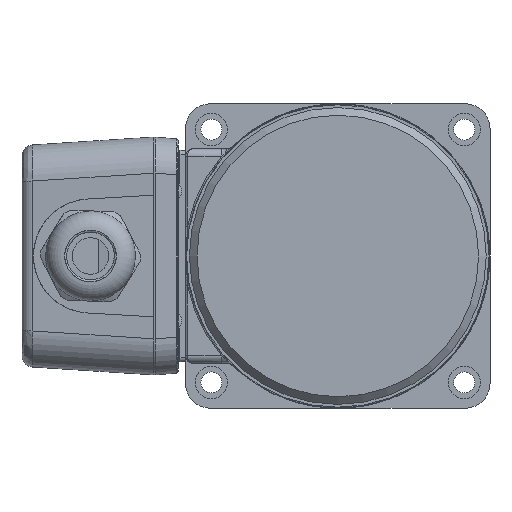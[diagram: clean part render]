
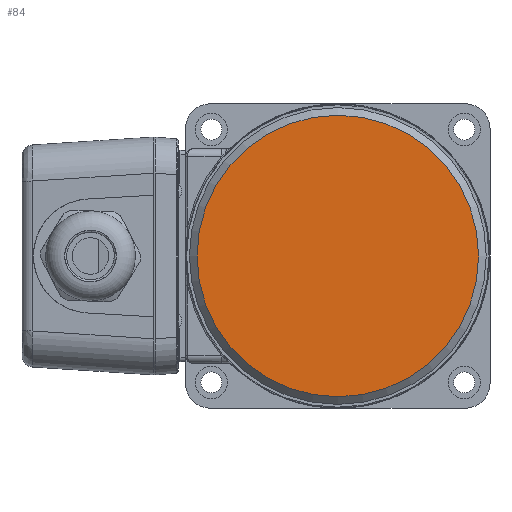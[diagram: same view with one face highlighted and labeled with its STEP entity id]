
A CAD part, left-side view. The second image highlights one B-rep face of the part: STEP entity #84.
In plain terms, the highlighted planar face has unit normal (-1, 0, 0).
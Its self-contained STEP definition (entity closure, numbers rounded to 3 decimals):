
#68=CARTESIAN_POINT('',(0.0,18.5,0.0));
#69=DIRECTION('',(-1.0,0.0,0.0));
#70=DIRECTION('',(0.0,0.0,1.0));
#71=AXIS2_PLACEMENT_3D('',#68,#69,#70);
#72=PLANE('',#71);
#73=CARTESIAN_POINT('',(0.0,37.,0.0));
#74=VERTEX_POINT('',#73);
#75=CARTESIAN_POINT('',(0.,0.,0.0));
#76=DIRECTION('',(1.0,0.0,0.0));
#77=DIRECTION('',(0.0,1.0,0.0));
#78=AXIS2_PLACEMENT_3D('',#75,#76,#77);
#79=CIRCLE('',#78,37.);
#80=EDGE_CURVE('',#74,#74,#79,.T.);
#81=ORIENTED_EDGE('',*,*,#80,.F.);
#82=EDGE_LOOP('',(#81));
#83=FACE_OUTER_BOUND('',#82,.T.);
#84=ADVANCED_FACE('',(#83),#72,.T.);
